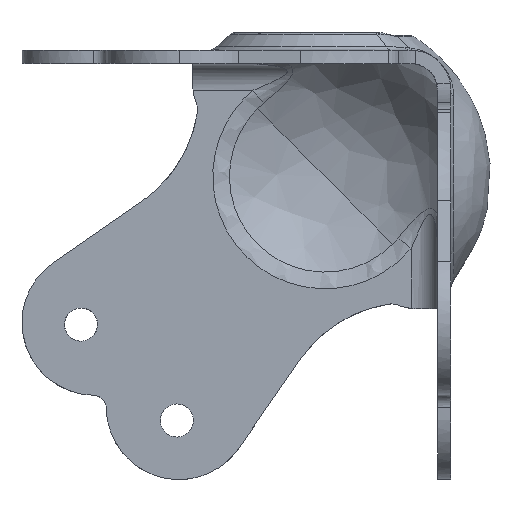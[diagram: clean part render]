
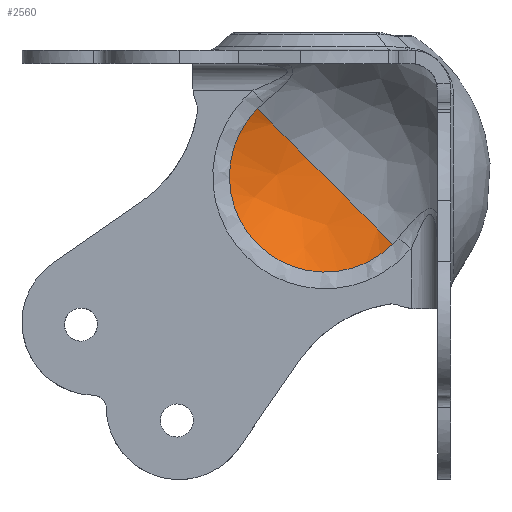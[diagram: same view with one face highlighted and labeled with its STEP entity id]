
A CAD part, top view. The second image highlights one B-rep face of the part: STEP entity #2560.
In plain terms, the highlighted free-form (B-spline) face has degree [3, 3] with [4, 4] control points.
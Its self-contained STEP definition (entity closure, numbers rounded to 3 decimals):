
#81 = CARTESIAN_POINT ( 'NONE',  ( -8.778, -29.222, 1.111 ) ) ;
#152 = CARTESIAN_POINT ( 'NONE',  ( -27.179, -19.066, -6.055 ) ) ;
#576 = DIRECTION ( 'NONE',  ( 0.707, 0.707, 0. ) ) ;
#616 = DIRECTION ( 'NONE',  ( 0.707, -0.707, 0. ) ) ;
#685 = EDGE_CURVE ( 'NONE', #6914, #2614, #3459, .T. ) ;
#729 =( BOUNDED_CURVE ( )  B_SPLINE_CURVE ( 3, ( #2015, #4385, #2634, #2094, #3298, #7475, #6855 ),
 .UNSPECIFIED., .F., .T. ) 
 B_SPLINE_CURVE_WITH_KNOTS ( ( 4, 3, 4 ),
 ( 0.026, 0.5, 0.974 ),
 .UNSPECIFIED. ) 
 CURVE ( )  GEOMETRIC_REPRESENTATION_ITEM ( )  RATIONAL_B_SPLINE_CURVE ( ( 1., 0.805, 0.805, 1., 0.805, 0.805, 1. ) ) 
 REPRESENTATION_ITEM ( '' )  );
#780 = EDGE_LOOP ( 'NONE', ( #3174, #6402 ) ) ;
#1178 = CARTESIAN_POINT ( 'NONE',  ( -11.599, -32.249, 1.23 ) ) ;
#1254 = CARTESIAN_POINT ( 'NONE',  ( -34.257, -26.144, -0.412 ) ) ;
#1616 =( BOUNDED_SURFACE ( )  B_SPLINE_SURFACE ( 3, 3, ( 
 ( #3598, #6603, #1178, #5354 ),
 ( #4763, #4291, #6639, #6523 ),
 ( #1254, #4883, #152, #4805 ),
 ( #5512, #6677, #1803, #6017 ) ),
 .UNSPECIFIED., .F., .F., .F. ) 
 B_SPLINE_SURFACE_WITH_KNOTS ( ( 4, 4 ),
 ( 4, 4 ),
 ( 0., 1. ),
 ( 0., 1. ),
 .UNSPECIFIED. ) 
 GEOMETRIC_REPRESENTATION_ITEM ( )  RATIONAL_B_SPLINE_SURFACE ( (
 ( 1., 0.961, 0.961, 1.),
 ( 0.848, 0.816, 0.816, 0.848),
 ( 0.848, 0.816, 0.816, 0.848),
 ( 1., 0.961, 0.961, 1.) ) ) 
 REPRESENTATION_ITEM ( '' )  SURFACE ( )  );
#1767 = CARTESIAN_POINT ( 'NONE',  ( -29.222, -8.778, 1.111 ) ) ;
#1803 = CARTESIAN_POINT ( 'NONE',  ( -32.249, -11.599, 1.23 ) ) ;
#2015 = CARTESIAN_POINT ( 'NONE',  ( -8.778, -29.222, 1.111 ) ) ;
#2094 = CARTESIAN_POINT ( 'NONE',  ( -29.222, -29.222, 1.111 ) ) ;
#2268 = FACE_OUTER_BOUND ( 'NONE', #780, .T. ) ;
#2560 = ADVANCED_FACE ( 'NONE', ( #2268 ), #1616, .F. ) ;
#2614 = VERTEX_POINT ( 'NONE', #1767 ) ;
#2634 = CARTESIAN_POINT ( 'NONE',  ( -23.234, -35.21, 1.111 ) ) ;
#3174 = ORIENTED_EDGE ( 'NONE', *, *, #3477, .F. ) ;
#3298 = CARTESIAN_POINT ( 'NONE',  ( -35.21, -23.234, 1.111 ) ) ;
#3459 = CIRCLE ( 'NONE', #6701, 23. ) ;
#3477 = EDGE_CURVE ( 'NONE', #6914, #2614, #729, .T. ) ;
#3598 = CARTESIAN_POINT ( 'NONE',  ( -16.619, -37.269, 5.232 ) ) ;
#4291 = CARTESIAN_POINT ( 'NONE',  ( -22.95, -31.063, -4.098 ) ) ;
#4385 = CARTESIAN_POINT ( 'NONE',  ( -14.766, -35.21, 1.111 ) ) ;
#4763 = CARTESIAN_POINT ( 'NONE',  ( -26.144, -34.257, -0.412 ) ) ;
#4805 = CARTESIAN_POINT ( 'NONE',  ( -23.057, -14.943, -6.055 ) ) ;
#4883 = CARTESIAN_POINT ( 'NONE',  ( -31.063, -22.95, -4.098 ) ) ;
#5291 = CARTESIAN_POINT ( 'NONE',  ( -19., -19., 19. ) ) ;
#5354 = CARTESIAN_POINT ( 'NONE',  ( -8.675, -29.325, 1.23 ) ) ;
#5512 = CARTESIAN_POINT ( 'NONE',  ( -37.269, -16.619, 5.232 ) ) ;
#6017 = CARTESIAN_POINT ( 'NONE',  ( -29.325, -8.675, 1.23 ) ) ;
#6402 = ORIENTED_EDGE ( 'NONE', *, *, #685, .T. ) ;
#6523 = CARTESIAN_POINT ( 'NONE',  ( -14.943, -23.057, -6.055 ) ) ;
#6603 = CARTESIAN_POINT ( 'NONE',  ( -14.354, -35.004, 2.617 ) ) ;
#6639 = CARTESIAN_POINT ( 'NONE',  ( -19.066, -27.179, -6.055 ) ) ;
#6677 = CARTESIAN_POINT ( 'NONE',  ( -35.004, -14.354, 2.617 ) ) ;
#6701 = AXIS2_PLACEMENT_3D ( 'NONE', #5291, #576, #616 ) ;
#6855 = CARTESIAN_POINT ( 'NONE',  ( -29.222, -8.778, 1.111 ) ) ;
#6914 = VERTEX_POINT ( 'NONE', #81 ) ;
#7475 = CARTESIAN_POINT ( 'NONE',  ( -35.21, -14.766, 1.111 ) ) ;
